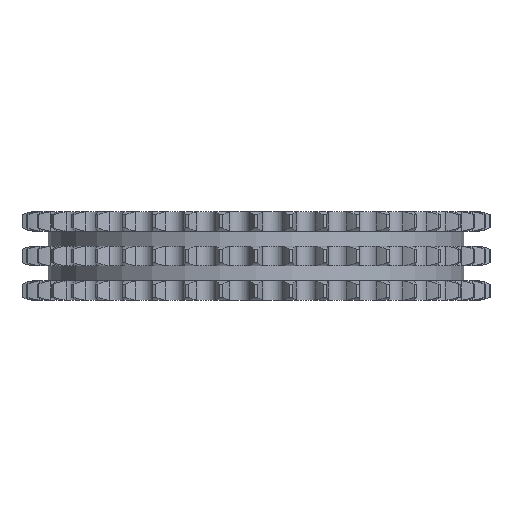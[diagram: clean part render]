
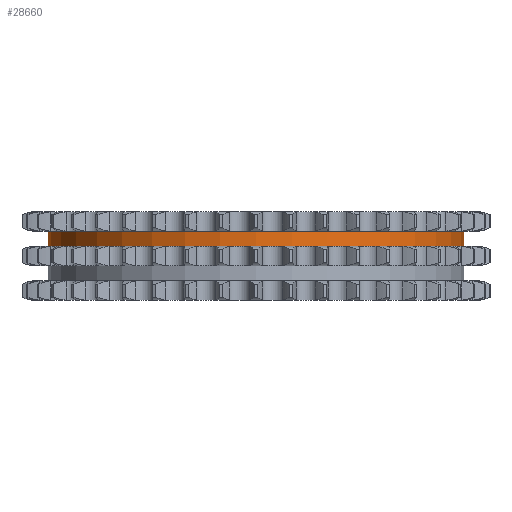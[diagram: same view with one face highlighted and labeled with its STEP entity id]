
A CAD part, left-side view. The second image highlights one B-rep face of the part: STEP entity #28660.
In plain terms, the highlighted cylindrical face has radius 116.459 mm (diameter 232.917 mm), a partial arc.
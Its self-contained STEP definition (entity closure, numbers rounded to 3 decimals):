
#5417=DIRECTION('',(0.,0.,-1.));
#5418=VECTOR('',#5417,8.25);
#5419=CARTESIAN_POINT('',(0.,116.459,13.8));
#5420=LINE('',#5419,#5418);
#5424=CARTESIAN_POINT('',(0.,0.,13.8));
#5425=DIRECTION('',(0.,0.,1.));
#5426=DIRECTION('',(0.,1.,0.));
#5427=AXIS2_PLACEMENT_3D('',#5424,#5425,#5426);
#5432=DIRECTION('',(0.,0.,-1.));
#5433=VECTOR('',#5432,8.25);
#5434=CARTESIAN_POINT('',(0.,-116.459,13.8));
#5435=LINE('',#5434,#5433);
#5439=CARTESIAN_POINT('',(0.,0.,5.55));
#5440=DIRECTION('',(0.,0.,1.));
#5441=DIRECTION('',(0.,1.,0.));
#5442=AXIS2_PLACEMENT_3D('',#5439,#5440,#5441);
#23178=CARTESIAN_POINT('',(0.,116.459,13.8));
#23179=CARTESIAN_POINT('',(0.,116.459,5.55));
#23180=VERTEX_POINT('',#23178);
#23181=VERTEX_POINT('',#23179);
#23182=CARTESIAN_POINT('',(0.,-116.459,13.8));
#23183=CARTESIAN_POINT('',(0.,-116.459,5.55));
#23184=VERTEX_POINT('',#23182);
#23185=VERTEX_POINT('',#23183);
#28648=CARTESIAN_POINT('',(0.,0.,15.18));
#28649=DIRECTION('',(0.,0.,-1.));
#28650=DIRECTION('',(0.,-1.,0.));
#28651=AXIS2_PLACEMENT_3D('',#28648,#28649,#28650);
#28652=CYLINDRICAL_SURFACE('',#28651,116.459);
#28653=ORIENTED_EDGE('',*,*,#28638,.F.);
#28654=ORIENTED_EDGE('',*,*,#28628,.T.);
#28655=ORIENTED_EDGE('',*,*,#28642,.T.);
#28657=ORIENTED_EDGE('',*,*,#28656,.F.);
#28658=EDGE_LOOP('',(#28653,#28654,#28655,#28657));
#28659=FACE_OUTER_BOUND('',#28658,.F.);
#28660=ADVANCED_FACE('',(#28659),#28652,.T.);
#5428=CIRCLE('',#5427,116.459);
#5443=CIRCLE('',#5442,116.459);
#28628=EDGE_CURVE('',#23180,#23184,#5428,.T.);
#28638=EDGE_CURVE('',#23180,#23181,#5420,.T.);
#28642=EDGE_CURVE('',#23184,#23185,#5435,.T.);
#28656=EDGE_CURVE('',#23181,#23185,#5443,.T.);
